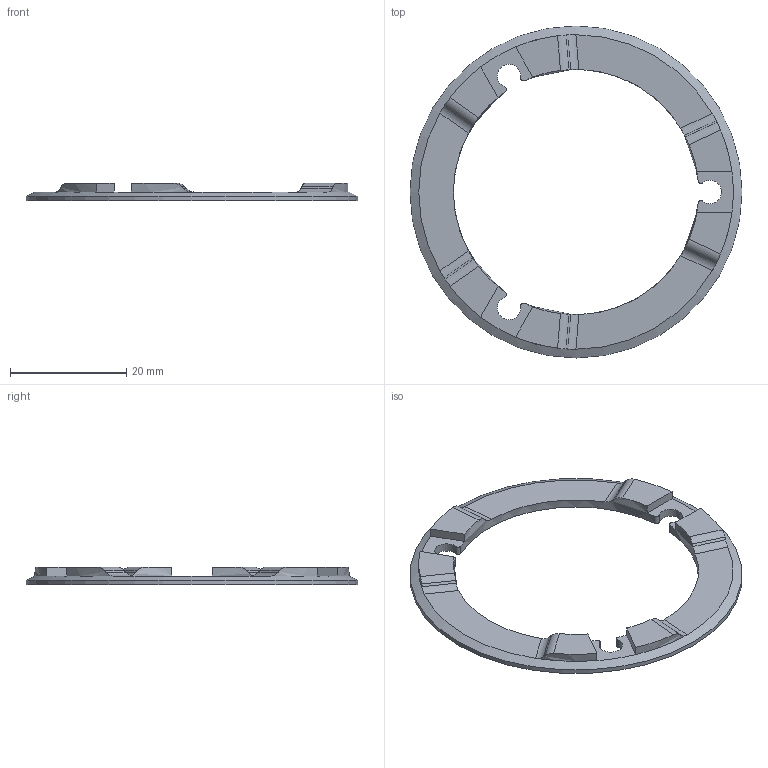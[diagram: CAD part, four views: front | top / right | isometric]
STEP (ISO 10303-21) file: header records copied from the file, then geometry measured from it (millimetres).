
FILE_DESCRIPTION(/* description */ ('CAx-IF Rec.Pracs.---Representation and Presentation of Product Manufacturing Information (PMI)---4.0---2014-10-13','CAx-IF Rec.Pracs.---3D Tessellated Geometry---0.4---2014-09-14','2;1'),/* implementation_level */ '2;1');
FILE_NAME(/* name */ 'qc1_p60',/* time_stamp */ '2026-07-26T03:17:20+03:00',/* author */ (''),/* organization */ (''),/* preprocessor_version */ 'ST-DEVELOPER v19.4',/* originating_system */ 'SIEMENS PLM Software NX2306.1700',/* authorisation */ $);
FILE_SCHEMA (('AP242_MANAGED_MODEL_BASED_3D_ENGINEERING_MIM_LF { 1 0 10303 442 3 1 4 }'));
Length unit declared in the file: millimetre
Products named in the file (1): qc1_p60
Bounding box: 57 x 57 x 3 mm (x, y, z)
Volume: 1997.3 mm3; surface area: 2846.4 mm2
Topology: 1 solids, 1 shells, 57 faces, 155 edges, 99 vertices
Faces by surface type: cylinder 31, plane 25, cone 1
Full cylindrical faces by diameter (mm): 57 x1
Entity records: 1844 total; most frequent: CARTESIAN_POINT 380, DIRECTION 312, ORIENTED_EDGE 304, EDGE_CURVE 152, AXIS2_PLACEMENT_3D 126, VERTEX_POINT 98, LINE 60, VECTOR 60
